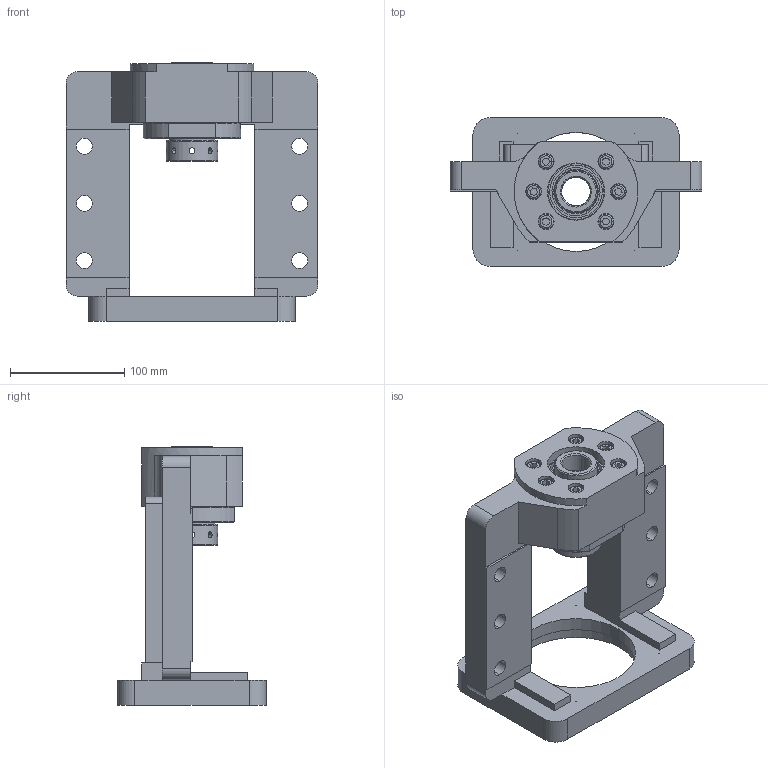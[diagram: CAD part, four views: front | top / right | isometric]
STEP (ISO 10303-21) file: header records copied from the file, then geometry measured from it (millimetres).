
FILE_DESCRIPTION (( 'STEP AP203' ), '1' );
FILE_NAME ('MBCS25L-G.STEP', '2024-10-11T01:13:13', ( '' ), ( '' ), 'SwSTEP 2.0', 'SolidWorks 2018', '' );
FILE_SCHEMA (( 'CONFIG_CONTROL_DESIGN' ));
Length unit declared in the file: millimetre
Products named in the file (1): MBCS25L-G
Bounding box: 220 x 130 x 226 mm (x, y, z)
Surface area: 195271.1 mm2 (no closed solid volume)
Topology: 0 solids, 22 shells, 342 faces, 953 edges, 628 vertices
Faces by surface type: cylinder 135, plane 121, cone 60, torus 26
Entity records: 12216 total; most frequent: CARTESIAN_POINT 3296, DIRECTION 1933, ORIENTED_EDGE 1673, EDGE_CURVE 945, AXIS2_PLACEMENT_3D 749, VERTEX_POINT 628, LINE 435, VECTOR 435
